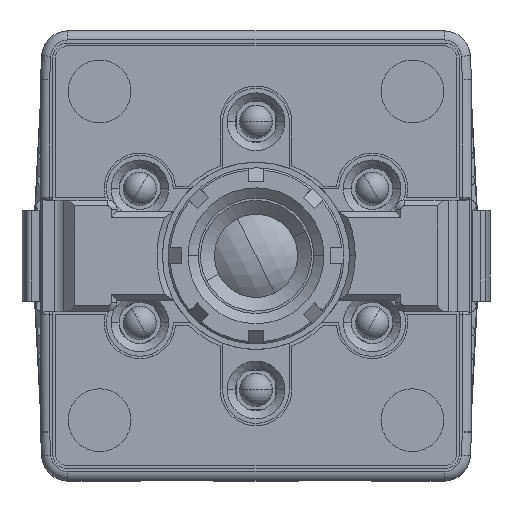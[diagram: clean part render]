
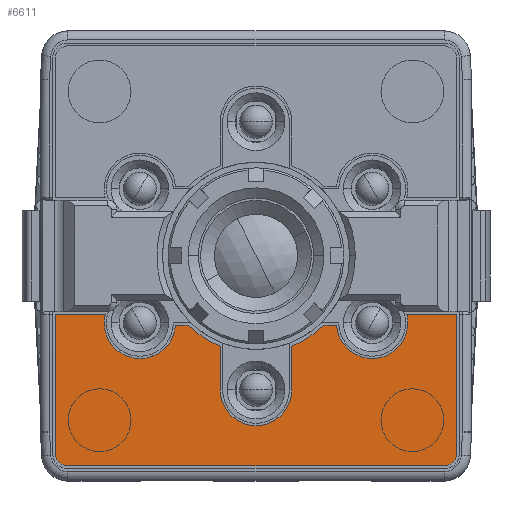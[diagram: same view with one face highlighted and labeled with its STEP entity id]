
A CAD part, top view. The second image highlights one B-rep face of the part: STEP entity #6611.
In plain terms, the highlighted planar face has unit normal (0, 0, 1).
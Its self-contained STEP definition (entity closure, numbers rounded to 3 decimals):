
#6322 = VERTEX_POINT ( 'NONE', #62502 ) ;
#6324 = EDGE_CURVE ( 'NONE', #6406, #6322, #62501, .T. ) ;
#6330 = EDGE_CURVE ( 'NONE', #6322, #6447, #62495, .T. ) ;
#6343 = EDGE_CURVE ( 'NONE', #6364, #6432, #62407, .T. ) ;
#6364 = VERTEX_POINT ( 'NONE', #62388 ) ;
#6366 = EDGE_CURVE ( 'NONE', #6448, #6364, #62387, .T. ) ;
#6406 = VERTEX_POINT ( 'NONE', #62537 ) ;
#6408 = EDGE_CURVE ( 'NONE', #6409, #6406, #62536, .T. ) ;
#6409 = VERTEX_POINT ( 'NONE', #62532 ) ;
#6432 = VERTEX_POINT ( 'NONE', #62355 ) ;
#6436 = VERTEX_POINT ( 'NONE', #62348 ) ;
#6443 = EDGE_CURVE ( 'NONE', #6683, #6436, #62746, .T. ) ;
#6445 = VERTEX_POINT ( 'NONE', #62773 ) ;
#6446 = EDGE_CURVE ( 'NONE', #6447, #6448, #62772, .T. ) ;
#6447 = VERTEX_POINT ( 'NONE', #62767 ) ;
#6448 = VERTEX_POINT ( 'NONE', #62766 ) ;
#6571 = EDGE_CURVE ( 'NONE', #6634, #6647, #62693, .T. ) ;
#6579 = EDGE_CURVE ( 'NONE', #6647, #6690, #62838, .T. ) ;
#6585 = VERTEX_POINT ( 'NONE', #62828 ) ;
#6597 = EDGE_CURVE ( 'NONE', #6678, #6726, #62938, .T. ) ;
#6598 = ORIENTED_EDGE ( 'NONE', *, *, #6366, .T. ) ;
#6599 = ORIENTED_EDGE ( 'NONE', *, *, #6343, .T. ) ;
#6600 = ORIENTED_EDGE ( 'NONE', *, *, #6635, .T. ) ;
#6601 = ORIENTED_EDGE ( 'NONE', *, *, #6571, .T. ) ;
#6602 = ORIENTED_EDGE ( 'NONE', *, *, #6579, .T. ) ;
#6603 = ORIENTED_EDGE ( 'NONE', *, *, #6689, .T. ) ;
#6604 = ORIENTED_EDGE ( 'NONE', *, *, #6694, .T. ) ;
#6609 = EDGE_CURVE ( 'NONE', #6726, #6409, #62952, .T. ) ;
#6611 = ADVANCED_FACE ( 'NONE', ( #62948 ), #62947, .T. ) ;
#6612 = EDGE_LOOP ( 'NONE', ( #6613, #6614, #6733, #6734, #6598, #6599, #6600, #6601, #6602, #6603, #6604, #6728, #6729, #6730, #6731, #6735, #6736 ) ) ;
#6613 = ORIENTED_EDGE ( 'NONE', *, *, #6408, .T. ) ;
#6614 = ORIENTED_EDGE ( 'NONE', *, *, #6324, .T. ) ;
#6617 = VERTEX_POINT ( 'NONE', #62941 ) ;
#6626 = EDGE_CURVE ( 'NONE', #6617, #6678, #63079, .T. ) ;
#6634 = VERTEX_POINT ( 'NONE', #63058 ) ;
#6635 = EDGE_CURVE ( 'NONE', #6432, #6634, #63057, .T. ) ;
#6647 = VERTEX_POINT ( 'NONE', #63034 ) ;
#6678 = VERTEX_POINT ( 'NONE', #62992 ) ;
#6679 = EDGE_CURVE ( 'NONE', #6436, #6585, #62904, .T. ) ;
#6681 = EDGE_CURVE ( 'NONE', #6585, #6617, #62900, .T. ) ;
#6683 = VERTEX_POINT ( 'NONE', #62890 ) ;
#6689 = EDGE_CURVE ( 'NONE', #6690, #6445, #62879, .T. ) ;
#6690 = VERTEX_POINT ( 'NONE', #62874 ) ;
#6694 = EDGE_CURVE ( 'NONE', #6445, #6683, #62930, .T. ) ;
#6726 = VERTEX_POINT ( 'NONE', #62976 ) ;
#6728 = ORIENTED_EDGE ( 'NONE', *, *, #6443, .T. ) ;
#6729 = ORIENTED_EDGE ( 'NONE', *, *, #6679, .T. ) ;
#6730 = ORIENTED_EDGE ( 'NONE', *, *, #6681, .T. ) ;
#6731 = ORIENTED_EDGE ( 'NONE', *, *, #6626, .T. ) ;
#6733 = ORIENTED_EDGE ( 'NONE', *, *, #6330, .T. ) ;
#6734 = ORIENTED_EDGE ( 'NONE', *, *, #6446, .T. ) ;
#6735 = ORIENTED_EDGE ( 'NONE', *, *, #6597, .T. ) ;
#6736 = ORIENTED_EDGE ( 'NONE', *, *, #6609, .T. ) ;
#62348 = CARTESIAN_POINT ( 'NONE',  ( -13.203, -5.1, 44.1 ) ) ;
#62355 = CARTESIAN_POINT ( 'NONE',  ( 3.125, -7.905, 44.1 ) ) ;
#62384 = DIRECTION ( 'NONE',  ( -1., 0., 0. ) ) ;
#62385 = VECTOR ( 'NONE', #62384, 1000. ) ;
#62386 = CARTESIAN_POINT ( 'NONE',  ( 7.057, -6.075, 44.1 ) ) ;
#62387 = LINE ( 'NONE', #62386, #62385 ) ;
#62388 = CARTESIAN_POINT ( 'NONE',  ( 5.945, -6.075, 44.1 ) ) ;
#62404 = DIRECTION ( 'NONE',  ( -1., 0., 0. ) ) ;
#62405 = DIRECTION ( 'NONE',  ( 0., 0., -1. ) ) ;
#62406 = AXIS2_PLACEMENT_3D ( 'NONE', #62466, #62405, #62404 ) ;
#62407 = CIRCLE ( 'NONE', #62406, 8.5 ) ;
#62466 = CARTESIAN_POINT ( 'NONE',  ( 0., 0., 44.1 ) ) ;
#62487 = DIRECTION ( 'NONE',  ( -1., 0., 0. ) ) ;
#62488 = DIRECTION ( 'NONE',  ( 0., 0., -1. ) ) ;
#62489 = CARTESIAN_POINT ( 'NONE',  ( 10.176, -5.875, 44.1 ) ) ;
#62490 = AXIS2_PLACEMENT_3D ( 'NONE', #62489, #62488, #62487 ) ;
#62495 = CIRCLE ( 'NONE', #62490, 3.125 ) ;
#62498 = DIRECTION ( 'NONE',  ( -1., 0., 0. ) ) ;
#62499 = VECTOR ( 'NONE', #62498, 1000. ) ;
#62500 = CARTESIAN_POINT ( 'NONE',  ( 17.6, -5.1, 44.1 ) ) ;
#62501 = LINE ( 'NONE', #62500, #62499 ) ;
#62502 = CARTESIAN_POINT ( 'NONE',  ( 13.203, -5.1, 44.1 ) ) ;
#62532 = CARTESIAN_POINT ( 'NONE',  ( 17.6, -17.209, 44.1 ) ) ;
#62533 = DIRECTION ( 'NONE',  ( 0., 1., 0. ) ) ;
#62534 = VECTOR ( 'NONE', #62533, 1000. ) ;
#62535 = CARTESIAN_POINT ( 'NONE',  ( 17.6, -17.209, 44.1 ) ) ;
#62536 = LINE ( 'NONE', #62535, #62534 ) ;
#62537 = CARTESIAN_POINT ( 'NONE',  ( 17.6, -5.1, 44.1 ) ) ;
#62637 = CARTESIAN_POINT ( 'NONE',  ( -10.176, -5.875, 44.1 ) ) ;
#62638 = AXIS2_PLACEMENT_3D ( 'NONE', #62637, #62776, #62775 ) ;
#62689 = DIRECTION ( 'NONE',  ( -1., 0., 0. ) ) ;
#62690 = DIRECTION ( 'NONE',  ( 0., 0., -1. ) ) ;
#62691 = CARTESIAN_POINT ( 'NONE',  ( 0., -11.75, 44.1 ) ) ;
#62692 = AXIS2_PLACEMENT_3D ( 'NONE', #62691, #62690, #62689 ) ;
#62693 = CIRCLE ( 'NONE', #62692, 3.125 ) ;
#62746 = CIRCLE ( 'NONE', #62638, 3.125 ) ;
#62766 = CARTESIAN_POINT ( 'NONE',  ( 7.057, -6.075, 44.1 ) ) ;
#62767 = CARTESIAN_POINT ( 'NONE',  ( 13.301, -5.875, 44.1 ) ) ;
#62768 = DIRECTION ( 'NONE',  ( -1., 0., 0. ) ) ;
#62769 = DIRECTION ( 'NONE',  ( 0., 0., -1. ) ) ;
#62770 = CARTESIAN_POINT ( 'NONE',  ( 10.176, -5.875, 44.1 ) ) ;
#62771 = AXIS2_PLACEMENT_3D ( 'NONE', #62770, #62769, #62768 ) ;
#62772 = CIRCLE ( 'NONE', #62771, 3.125 ) ;
#62773 = CARTESIAN_POINT ( 'NONE',  ( -5.945, -6.075, 44.1 ) ) ;
#62775 = DIRECTION ( 'NONE',  ( -1., 0., 0. ) ) ;
#62776 = DIRECTION ( 'NONE',  ( 0., 0., -1. ) ) ;
#62828 = CARTESIAN_POINT ( 'NONE',  ( -17.6, -5.1, 44.1 ) ) ;
#62833 = DIRECTION ( 'NONE',  ( 0., 1., 0. ) ) ;
#62834 = VECTOR ( 'NONE', #62833, 1000. ) ;
#62835 = CARTESIAN_POINT ( 'NONE',  ( -3.125, -11.75, 44.1 ) ) ;
#62838 = LINE ( 'NONE', #62835, #62834 ) ;
#62874 = CARTESIAN_POINT ( 'NONE',  ( -3.125, -7.905, 44.1 ) ) ;
#62875 = DIRECTION ( 'NONE',  ( -1., 0., 0. ) ) ;
#62876 = DIRECTION ( 'NONE',  ( 0., 0., -1. ) ) ;
#62877 = CARTESIAN_POINT ( 'NONE',  ( 0., 0., 44.1 ) ) ;
#62878 = AXIS2_PLACEMENT_3D ( 'NONE', #62877, #62876, #62875 ) ;
#62879 = CIRCLE ( 'NONE', #62878, 8.5 ) ;
#62890 = CARTESIAN_POINT ( 'NONE',  ( -7.057, -6.075, 44.1 ) ) ;
#62897 = DIRECTION ( 'NONE',  ( 0., -1., 0. ) ) ;
#62898 = VECTOR ( 'NONE', #62897, 1000. ) ;
#62899 = CARTESIAN_POINT ( 'NONE',  ( -17.6, -17.209, 44.1 ) ) ;
#62900 = LINE ( 'NONE', #62899, #62898 ) ;
#62901 = DIRECTION ( 'NONE',  ( -1., 0., 0. ) ) ;
#62902 = VECTOR ( 'NONE', #62901, 1000. ) ;
#62903 = CARTESIAN_POINT ( 'NONE',  ( -13.203, -5.1, 44.1 ) ) ;
#62904 = LINE ( 'NONE', #62903, #62902 ) ;
#62927 = DIRECTION ( 'NONE',  ( -1., 0., 0. ) ) ;
#62928 = VECTOR ( 'NONE', #62927, 1000. ) ;
#62929 = CARTESIAN_POINT ( 'NONE',  ( -7.057, -6.075, 44.1 ) ) ;
#62930 = LINE ( 'NONE', #62929, #62928 ) ;
#62935 = DIRECTION ( 'NONE',  ( 1., 0., 0. ) ) ;
#62936 = VECTOR ( 'NONE', #62935, 1000. ) ;
#62937 = CARTESIAN_POINT ( 'NONE',  ( -16.4, -18.409, 44.1 ) ) ;
#62938 = LINE ( 'NONE', #62937, #62936 ) ;
#62941 = CARTESIAN_POINT ( 'NONE',  ( -17.6, -17.209, 44.1 ) ) ;
#62943 = DIRECTION ( 'NONE',  ( -1., 0., 0. ) ) ;
#62944 = DIRECTION ( 'NONE',  ( 0., 0., 1. ) ) ;
#62945 = AXIS2_PLACEMENT_3D ( 'NONE', #62946, #62944, #62943 ) ;
#62946 = CARTESIAN_POINT ( 'NONE',  ( 10.176, -5.875, 44.1 ) ) ;
#62947 = PLANE ( 'NONE',  #62945 ) ;
#62948 = FACE_OUTER_BOUND ( 'NONE', #6612, .T. ) ;
#62949 = DIRECTION ( 'NONE',  ( -1., 0., 0. ) ) ;
#62950 = DIRECTION ( 'NONE',  ( 0., 0., 1. ) ) ;
#62951 = AXIS2_PLACEMENT_3D ( 'NONE', #62958, #62950, #62949 ) ;
#62952 = CIRCLE ( 'NONE', #62951, 1.2 ) ;
#62958 = CARTESIAN_POINT ( 'NONE',  ( 16.4, -17.209, 44.1 ) ) ;
#62976 = CARTESIAN_POINT ( 'NONE',  ( 16.4, -18.409, 44.1 ) ) ;
#62992 = CARTESIAN_POINT ( 'NONE',  ( -16.4, -18.409, 44.1 ) ) ;
#63034 = CARTESIAN_POINT ( 'NONE',  ( -3.125, -11.75, 44.1 ) ) ;
#63054 = DIRECTION ( 'NONE',  ( 0., -1., 0. ) ) ;
#63055 = VECTOR ( 'NONE', #63054, 1000. ) ;
#63056 = CARTESIAN_POINT ( 'NONE',  ( 3.125, -11.75, 44.1 ) ) ;
#63057 = LINE ( 'NONE', #63056, #63055 ) ;
#63058 = CARTESIAN_POINT ( 'NONE',  ( 3.125, -11.75, 44.1 ) ) ;
#63071 = DIRECTION ( 'NONE',  ( -1., 0., 0. ) ) ;
#63072 = DIRECTION ( 'NONE',  ( 0., 0., 1. ) ) ;
#63073 = CARTESIAN_POINT ( 'NONE',  ( -16.4, -17.209, 44.1 ) ) ;
#63074 = AXIS2_PLACEMENT_3D ( 'NONE', #63073, #63072, #63071 ) ;
#63079 = CIRCLE ( 'NONE', #63074, 1.2 ) ;
